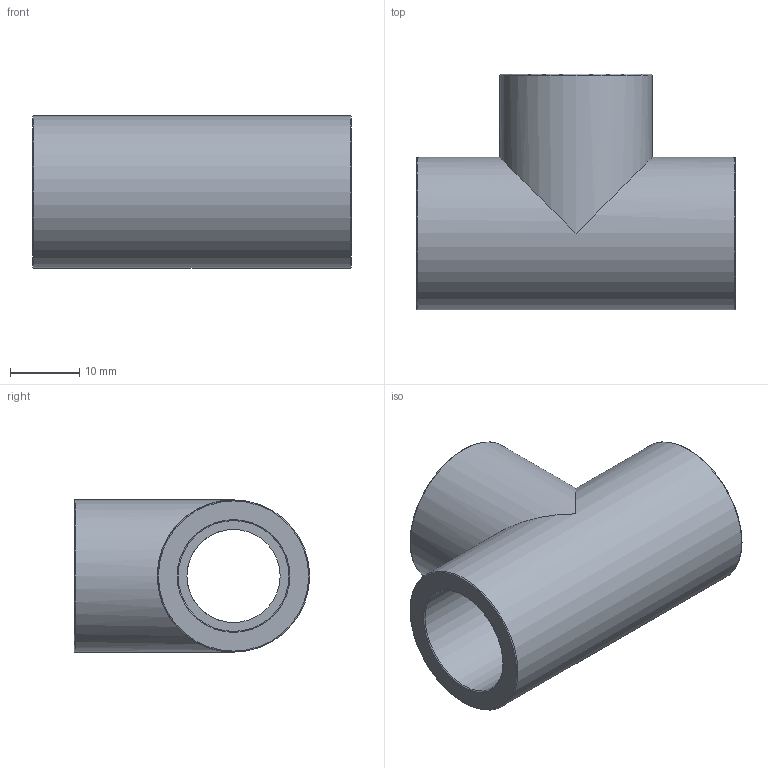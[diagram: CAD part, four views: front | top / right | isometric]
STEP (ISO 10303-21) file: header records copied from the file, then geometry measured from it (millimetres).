
FILE_DESCRIPTION(/* description */ ('PLASSON TEE THR-CEM PVC 16-3/8"'),/* implementation_level */ '2;1');
FILE_NAME(/* name */ 'C:\Dropbox\KIMPROJECTS-Inventor\99-16-3568-Processing\PVC Catalog 2017\050402\050402016003.ipt.stp',/* time_stamp */ '2017-12-07T15:55:11+02:00',/* author */ ('KIM'),/* organization */ (''),/* preprocessor_version */ 'ST-DEVELOPER v15.6',/* originating_system */ 'Autodesk Inventor 2015',/* authorisation */ '');
FILE_SCHEMA (('AUTOMOTIVE_DESIGN { 1 0 10303 214 3 1 1 }'));
Length unit declared in the file: millimetre
Products named in the file (1): 050402016003
Bounding box: 46 x 34 x 22 mm (x, y, z)
Volume: 11597.4 mm3; surface area: 7334.5 mm2
Topology: 1 solids, 1 shells, 18 faces, 41 edges, 27 vertices
Faces by surface type: cylinder 7, plane 6, torus 5
Full cylindrical faces by diameter (mm): 13.455 x2, 14.95 x1, 16 x2, 22 x2
Entity records: 426 total; most frequent: DIRECTION 80, CARTESIAN_POINT 61, ORIENTED_EDGE 42, AXIS2_PLACEMENT_3D 40, EDGE_LOOP 38, VERTEX_POINT 21, EDGE_CURVE 21, FACE_BOUND 20
